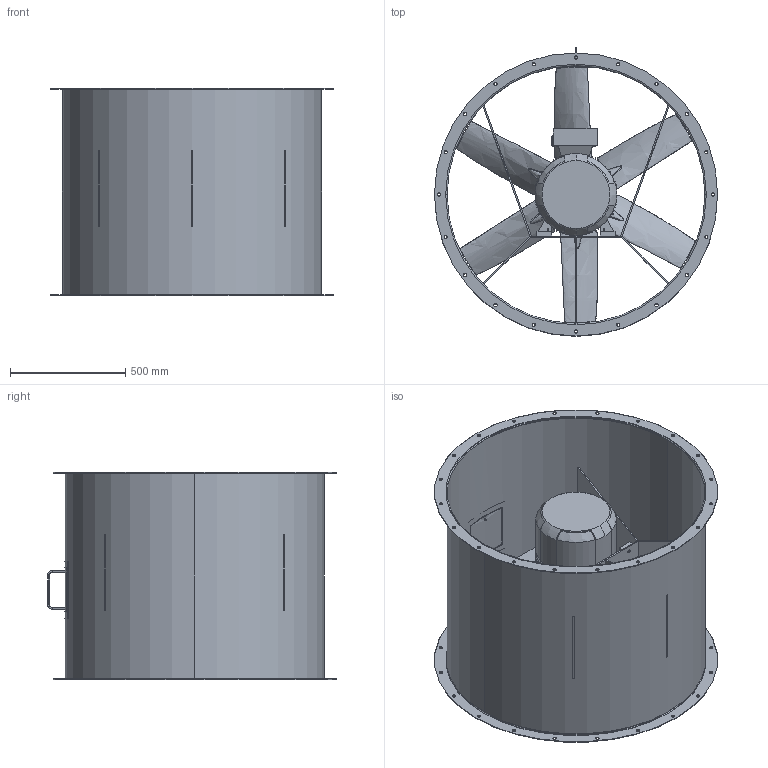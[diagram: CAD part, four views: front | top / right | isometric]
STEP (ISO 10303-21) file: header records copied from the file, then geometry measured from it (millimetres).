
FILE_DESCRIPTION (( 'STEP AP214' ), '1' );
FILE_NAME ('BRV 1120_FF_L900_mot.180.STEP', '2020-08-20T12:18:46', ( '' ), ( '' ), 'SwSTEP 2.0', 'SolidWorks 2016', '' );
FILE_SCHEMA (( 'AUTOMOTIVE_DESIGN' ));
Length unit declared in the file: millimetre
Products named in the file (34): 27060704606 - 1109_6-6_35_PAG_7WL_48_14_112_A-108002; C1-1-Bolt-Y62008350020_1109_6-6_35_PAG_7WL_48_14_112_A-108002; 17700200039 - 1109_6-6_35_PAG_7WL_48_14_112_A-108002_Right; 1109_6-6_35_PAG_7WL_48_14_112_A-108002; 1TZ9 C 180L-4 22kW B3 IE3; BRV 1120_FF_L900_mot.180; M8_C1-2 Bolt And Nuts - 1109_6-6_35_PAG_7WL_48_14_112_A-108002_5; M8_C1-2 Bolt And Nuts - 1109_6-6_35_PAG_7WL_48_14_112_A-108002_2; M8_C1-2 Bolt And Nuts - 1109_6-6_35_PAG_7WL_48_14_112_A-108002_6; M8_C1-2 Bolt And Nuts - 1109_6-6_35_PAG_7WL_48_14_112_A-108002_4; C1-2-Bolt-Y62008350020_1109_6-6_35_PAG_7WL_48_14_112_A-108002; M8_C1-1 Bolt And Nuts - 1109_6-6_35_PAG_7WL_48_14_112_A-108002; M8_C1-1 Bolt And Nuts - 1109_6-6_35_PAG_7WL_48_14_112_A-108002_6; Boss Bolt And Nuts - 1109_6-6_35_PAG_7WL_48_14_112_A-108002_3; BB-Nut-_1109_6-6_35_PAG_7WL_48_14_112_A-108002; 27000711806 - 1109_6-6_35_PAG_7WL_48_14_112_A-108002; M8_C1-1 Bolt And Nuts - 1109_6-6_35_PAG_7WL_48_14_112_A-108002_4; Insp. luke BRV 1120; M8_C1-1 Bolt And Nuts - 1109_6-6_35_PAG_7WL_48_14_112_A-108002_2; M8_C1-1 Bolt And Nuts - 1109_6-6_35_PAG_7WL_48_14_112_A-108002_3; Boss Bolt And Nuts - 1109_6-6_35_PAG_7WL_48_14_112_A-108002_9; Boss Bolt And Nuts - 1109_6-6_35_PAG_7WL_48_14_112_A-108002_8; Boss Bolt And Nuts - 1109_6-6_35_PAG_7WL_48_14_112_A-108002_7; Boss Bolt And Nuts - 1109_6-6_35_PAG_7WL_48_14_112_A-108002_6; Boss Bolt And Nuts - 1109_6-6_35_PAG_7WL_48_14_112_A-108002; BB-Bolt-Y62008450008_1109_6-6_35_PAG_7WL_48_14_112_A-108002; M8_C1-1 Bolt And Nuts - 1109_6-6_35_PAG_7WL_48_14_112_A-108002_5; C1-1-Nuts-Y63208000020_1109_6-6_35_PAG_7WL_48_14_112_A-108002; Boss Bolt And Nuts - 1109_6-6_35_PAG_7WL_48_14_112_A-108002_5; M8_C1-2 Bolt And Nuts - 1109_6-6_35_PAG_7WL_48_14_112_A-108002_3; C1-2-Nuts-Y63208000020_1109_6-6_35_PAG_7WL_48_14_112_A-108002; Boss Bolt And Nuts - 1109_6-6_35_PAG_7WL_48_14_112_A-108002_4; BRV 1120 hus_FF_L=900; M8_C1-2 Bolt And Nuts - 1109_6-6_35_PAG_7WL_48_14_112_A-108002
Assembly tree (73 placements, depth 4):
  BRV 1120_FF_L900_mot.180
    BRV 1120 hus_FF_L=900
    Insp. luke BRV 1120
    1TZ9 C 180L-4 22kW B3 IE3
    1109_6-6_35_PAG_7WL_48_14_112_A-108002
      27060704606 - 1109_6-6_35_PAG_7WL_48_14_112_A-108002  x2
      17700200039 - 1109_6-6_35_PAG_7WL_48_14_112_A-108002_Right  x6
      27000711806 - 1109_6-6_35_PAG_7WL_48_14_112_A-108002
      Boss Bolt And Nuts - 1109_6-6_35_PAG_7WL_48_14_112_A-108002
        BB-Bolt-Y62008450008_1109_6-6_35_PAG_7WL_48_14_112_A-108002
        BB-Nut-_1109_6-6_35_PAG_7WL_48_14_112_A-108002
      M8_C1-1 Bolt And Nuts - 1109_6-6_35_PAG_7WL_48_14_112_A-108002
        C1-1-Bolt-Y62008350020_1109_6-6_35_PAG_7WL_48_14_112_A-108002
        C1-1-Nuts-Y63208000020_1109_6-6_35_PAG_7WL_48_14_112_A-108002
      M8_C1-2 Bolt And Nuts - 1109_6-6_35_PAG_7WL_48_14_112_A-108002
        C1-2-Bolt-Y62008350020_1109_6-6_35_PAG_7WL_48_14_112_A-108002
        C1-2-Nuts-Y63208000020_1109_6-6_35_PAG_7WL_48_14_112_A-108002
      Boss Bolt And Nuts - 1109_6-6_35_PAG_7WL_48_14_112_A-108002_3
        BB-Bolt-Y62008450008_1109_6-6_35_PAG_7WL_48_14_112_A-108002
        BB-Nut-_1109_6-6_35_PAG_7WL_48_14_112_A-108002
      Boss Bolt And Nuts - 1109_6-6_35_PAG_7WL_48_14_112_A-108002_4
        BB-Nut-_1109_6-6_35_PAG_7WL_48_14_112_A-108002
        BB-Bolt-Y62008450008_1109_6-6_35_PAG_7WL_48_14_112_A-108002
      Boss Bolt And Nuts - 1109_6-6_35_PAG_7WL_48_14_112_A-108002_5
        BB-Bolt-Y62008450008_1109_6-6_35_PAG_7WL_48_14_112_A-108002
        BB-Nut-_1109_6-6_35_PAG_7WL_48_14_112_A-108002
      Boss Bolt And Nuts - 1109_6-6_35_PAG_7WL_48_14_112_A-108002_6
        BB-Bolt-Y62008450008_1109_6-6_35_PAG_7WL_48_14_112_A-108002
        BB-Nut-_1109_6-6_35_PAG_7WL_48_14_112_A-108002
      Boss Bolt And Nuts - 1109_6-6_35_PAG_7WL_48_14_112_A-108002_7
        BB-Nut-_1109_6-6_35_PAG_7WL_48_14_112_A-108002
        BB-Bolt-Y62008450008_1109_6-6_35_PAG_7WL_48_14_112_A-108002
      Boss Bolt And Nuts - 1109_6-6_35_PAG_7WL_48_14_112_A-108002_8
        BB-Nut-_1109_6-6_35_PAG_7WL_48_14_112_A-108002
        BB-Bolt-Y62008450008_1109_6-6_35_PAG_7WL_48_14_112_A-108002
      Boss Bolt And Nuts - 1109_6-6_35_PAG_7WL_48_14_112_A-108002_9
        BB-Bolt-Y62008450008_1109_6-6_35_PAG_7WL_48_14_112_A-108002
        BB-Nut-_1109_6-6_35_PAG_7WL_48_14_112_A-108002
      M8_C1-1 Bolt And Nuts - 1109_6-6_35_PAG_7WL_48_14_112_A-108002_2
        C1-1-Bolt-Y62008350020_1109_6-6_35_PAG_7WL_48_14_112_A-108002
        C1-1-Nuts-Y63208000020_1109_6-6_35_PAG_7WL_48_14_112_A-108002
      M8_C1-1 Bolt And Nuts - 1109_6-6_35_PAG_7WL_48_14_112_A-108002_3
        C1-1-Bolt-Y62008350020_1109_6-6_35_PAG_7WL_48_14_112_A-108002
        C1-1-Nuts-Y63208000020_1109_6-6_35_PAG_7WL_48_14_112_A-108002
      M8_C1-1 Bolt And Nuts - 1109_6-6_35_PAG_7WL_48_14_112_A-108002_4
        C1-1-Bolt-Y62008350020_1109_6-6_35_PAG_7WL_48_14_112_A-108002
        C1-1-Nuts-Y63208000020_1109_6-6_35_PAG_7WL_48_14_112_A-108002
      M8_C1-1 Bolt And Nuts - 1109_6-6_35_PAG_7WL_48_14_112_A-108002_5
        C1-1-Bolt-Y62008350020_1109_6-6_35_PAG_7WL_48_14_112_A-108002
        C1-1-Nuts-Y63208000020_1109_6-6_35_PAG_7WL_48_14_112_A-108002
      M8_C1-1 Bolt And Nuts - 1109_6-6_35_PAG_7WL_48_14_112_A-108002_6
        C1-1-Bolt-Y62008350020_1109_6-6_35_PAG_7WL_48_14_112_A-108002
        C1-1-Nuts-Y63208000020_1109_6-6_35_PAG_7WL_48_14_112_A-108002
      M8_C1-2 Bolt And Nuts - 1109_6-6_35_PAG_7WL_48_14_112_A-108002_2
        C1-2-Bolt-Y62008350020_1109_6-6_35_PAG_7WL_48_14_112_A-108002
        C1-2-Nuts-Y63208000020_1109_6-6_35_PAG_7WL_48_14_112_A-108002
      M8_C1-2 Bolt And Nuts - 1109_6-6_35_PAG_7WL_48_14_112_A-108002_3
        C1-2-Bolt-Y62008350020_1109_6-6_35_PAG_7WL_48_14_112_A-108002
        C1-2-Nuts-Y63208000020_1109_6-6_35_PAG_7WL_48_14_112_A-108002
      M8_C1-2 Bolt And Nuts - 1109_6-6_35_PAG_7WL_48_14_112_A-108002_4
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Bounding box: 1230 x 1254 x 900 mm (x, y, z)
Volume: 76349818.4 mm3; surface area: 12206465.6 mm2
Topology: 57 solids, 57 shells, 3447 faces, 8521 edges, 5091 vertices
Faces by surface type: bspline 1254, plane 1005, cylinder 604, cone 572, torus 12
Entity records: 84524 total; most frequent: CARTESIAN_POINT 43301, ORIENTED_EDGE 9218, DIRECTION 7274, EDGE_CURVE 4609, VERTEX_POINT 2876, AXIS2_PLACEMENT_3D 2741, EDGE_LOOP 2013, ADVANCED_FACE 1799
